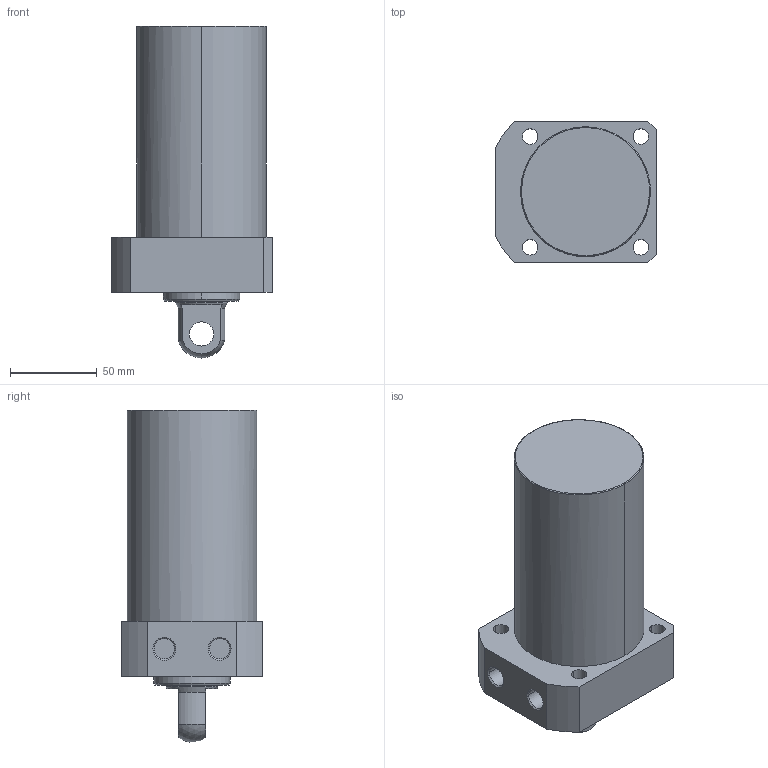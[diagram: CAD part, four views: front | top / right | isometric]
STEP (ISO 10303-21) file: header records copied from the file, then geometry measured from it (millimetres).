
FILE_DESCRIPTION((' '),'2;1');
FILE_NAME( 'TLLR-075CP-085.STEP.stp', '2025-10-24T16:35:14', (' '), ('--- Datakit www.datakit.com---'), ' Datakit CrossCadWare V2024.1 Dec 21 2023', 'Mastercam 2025', ' ');
FILE_SCHEMA(('AUTOMOTIVE_DESIGN { 1 0 10303 214 1 1 1 1 }'));
Length unit declared in the file: millimetre
Products named in the file (1): TLLR-075CP-085
Bounding box: 93 x 82 x 191.9 mm (x, y, z)
Volume: 782429.6 mm3; surface area: 61984.1 mm2
Topology: 1 solids, 1 shells, 57 faces, 164 edges, 116 vertices
Faces by surface type: cylinder 28, plane 18, cone 8, torus 2, sphere 1
Entity records: 2006 total; most frequent: DIRECTION 378, CARTESIAN_POINT 350, ORIENTED_EDGE 328, EDGE_CURVE 164, AXIS2_PLACEMENT_3D 160, VERTEX_POINT 116, CIRCLE 102, EDGE_LOOP 74
